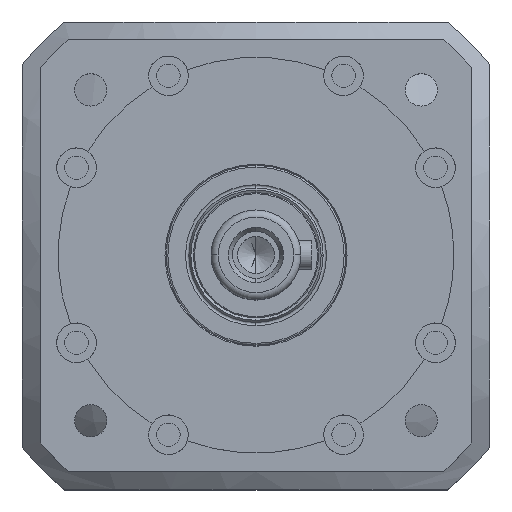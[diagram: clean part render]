
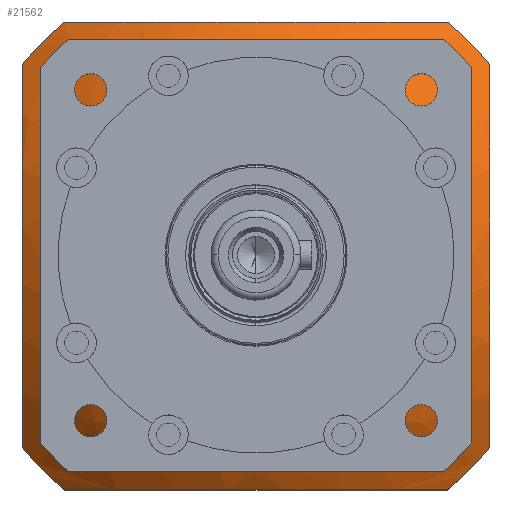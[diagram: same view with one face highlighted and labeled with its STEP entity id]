
A CAD part, top view. The second image highlights one B-rep face of the part: STEP entity #21562.
In plain terms, the highlighted spherical face has radius 120 mm.
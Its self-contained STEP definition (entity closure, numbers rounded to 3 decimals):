
#678 = CARTESIAN_POINT ( 'NONE',  ( -60., 0., -28. ) ) ;
#1631 = CIRCLE ( 'NONE', #9350, 100.871 ) ;
#2020 = DIRECTION ( 'NONE',  ( 1., 0., 0. ) ) ;
#2132 = AXIS2_PLACEMENT_3D ( 'NONE', #41748, #21915, #2020 ) ;
#2481 = CIRCLE ( 'NONE', #8600, 100.871 ) ;
#2708 = AXIS2_PLACEMENT_3D ( 'NONE', #10392, #33609, #13771 ) ;
#2795 = ORIENTED_EDGE ( 'NONE', *, *, #20665, .T. ) ;
#4876 = VERTEX_POINT ( 'NONE', #19861 ) ;
#5174 = DIRECTION ( 'NONE',  ( 0., 0., 1. ) ) ;
#5661 = AXIS2_PLACEMENT_3D ( 'NONE', #26237, #6320, #29570 ) ;
#5796 = CIRCLE ( 'NONE', #7872, 84. ) ;
#6076 = VERTEX_POINT ( 'NONE', #34321 ) ;
#6320 = DIRECTION ( 'NONE',  ( 0., 0., 1. ) ) ;
#6674 = EDGE_CURVE ( 'NONE', #11865, #4876, #1631, .T. ) ;
#7750 = VERTEX_POINT ( 'NONE', #35141 ) ;
#7872 = AXIS2_PLACEMENT_3D ( 'NONE', #12294, #35486, #15643 ) ;
#8600 = AXIS2_PLACEMENT_3D ( 'NONE', #39370, #19580, #42736 ) ;
#8960 = ORIENTED_EDGE ( 'NONE', *, *, #14673, .T. ) ;
#9153 = DIRECTION ( 'NONE',  ( 1., 0., 0. ) ) ;
#9350 = AXIS2_PLACEMENT_3D ( 'NONE', #33476, #13615, #36779 ) ;
#9354 = CARTESIAN_POINT ( 'NONE',  ( -65., -53.207, -46.226 ) ) ;
#9358 = ORIENTED_EDGE ( 'NONE', *, *, #6674, .T. ) ;
#9531 = CARTESIAN_POINT ( 'NONE',  ( 0., 0., -46.226 ) ) ;
#10230 = EDGE_CURVE ( 'NONE', #26830, #33622, #40307, .T. ) ;
#10392 = CARTESIAN_POINT ( 'NONE',  ( 0., -65., -131.923 ) ) ;
#11116 = CIRCLE ( 'NONE', #26156, 100.871 ) ;
#11865 = VERTEX_POINT ( 'NONE', #29378 ) ;
#12294 = CARTESIAN_POINT ( 'NONE',  ( 0., 0., -46.226 ) ) ;
#12597 = EDGE_CURVE ( 'NONE', #26474, #40013, #15330, .T. ) ;
#12888 = DIRECTION ( 'NONE',  ( 1., 0., 0. ) ) ;
#13295 = EDGE_CURVE ( 'NONE', #7750, #26474, #31871, .T. ) ;
#13615 = DIRECTION ( 'NONE',  ( 0., -1., 0. ) ) ;
#13771 = DIRECTION ( 'NONE',  ( 0., 0., 1. ) ) ;
#14465 = EDGE_LOOP ( 'NONE', ( #34163, #32335 ) ) ;
#14673 = EDGE_CURVE ( 'NONE', #35205, #11865, #31173, .T. ) ;
#14756 = ORIENTED_EDGE ( 'NONE', *, *, #16390, .T. ) ;
#15330 = CIRCLE ( 'NONE', #2132, 84. ) ;
#15482 = DIRECTION ( 'NONE',  ( 0.792, 0., 0.611 ) ) ;
#15626 = ORIENTED_EDGE ( 'NONE', *, *, #38587, .T. ) ;
#15643 = DIRECTION ( 'NONE',  ( 1., 0., 0. ) ) ;
#16390 = EDGE_CURVE ( 'NONE', #40013, #35205, #2481, .T. ) ;
#16404 = CARTESIAN_POINT ( 'NONE',  ( 0., 0., -46.226 ) ) ;
#17241 = AXIS2_PLACEMENT_3D ( 'NONE', #9531, #32763, #12888 ) ;
#18768 = CIRCLE ( 'NONE', #33680, 84. ) ;
#19147 = CIRCLE ( 'NONE', #31389, 60. ) ;
#19580 = DIRECTION ( 'NONE',  ( -1., 0., 0. ) ) ;
#19732 = DIRECTION ( 'NONE',  ( 1., 0., 0. ) ) ;
#19861 = CARTESIAN_POINT ( 'NONE',  ( -53.207, 65., -46.226 ) ) ;
#20665 = EDGE_CURVE ( 'NONE', #6076, #29468, #11116, .T. ) ;
#20692 = EDGE_LOOP ( 'NONE', ( #15626, #2795, #39885, #36729, #36771, #14756, #8960, #9358 ) ) ;
#21483 = FACE_BOUND ( 'NONE', #14465, .T. ) ;
#21562 = ADVANCED_FACE ( 'NONE', ( #21483, #29229 ), #38045, .T. ) ;
#21915 = DIRECTION ( 'NONE',  ( 0., 0., 1. ) ) ;
#25094 = CARTESIAN_POINT ( 'NONE',  ( 0., 0., -28. ) ) ;
#25466 = EDGE_CURVE ( 'NONE', #29468, #7750, #5796, .T. ) ;
#26156 = AXIS2_PLACEMENT_3D ( 'NONE', #29055, #9153, #32408 ) ;
#26237 = CARTESIAN_POINT ( 'NONE',  ( 0., 0., -28. ) ) ;
#26474 = VERTEX_POINT ( 'NONE', #28004 ) ;
#26830 = VERTEX_POINT ( 'NONE', #38753 ) ;
#27716 = CARTESIAN_POINT ( 'NONE',  ( 65., -53.207, -46.226 ) ) ;
#28004 = CARTESIAN_POINT ( 'NONE',  ( 53.207, -65., -46.226 ) ) ;
#28425 = DIRECTION ( 'NONE',  ( 1., 0., 0. ) ) ;
#28812 = DIRECTION ( 'NONE',  ( -0.611, 0., 0.792 ) ) ;
#28966 = EDGE_CURVE ( 'NONE', #33622, #26830, #19147, .T. ) ;
#29055 = CARTESIAN_POINT ( 'NONE',  ( -65., 0., -131.923 ) ) ;
#29229 = FACE_OUTER_BOUND ( 'NONE', #20692, .T. ) ;
#29378 = CARTESIAN_POINT ( 'NONE',  ( 53.207, 65., -46.226 ) ) ;
#29468 = VERTEX_POINT ( 'NONE', #9354 ) ;
#29570 = DIRECTION ( 'NONE',  ( 1., 0., 0. ) ) ;
#30450 = CARTESIAN_POINT ( 'NONE',  ( 65., 53.207, -46.226 ) ) ;
#31173 = CIRCLE ( 'NONE', #17241, 84. ) ;
#31389 = AXIS2_PLACEMENT_3D ( 'NONE', #25094, #5174, #28425 ) ;
#31587 = CARTESIAN_POINT ( 'NONE',  ( 0., 0., -131.923 ) ) ;
#31871 = CIRCLE ( 'NONE', #2708, 100.871 ) ;
#32335 = ORIENTED_EDGE ( 'NONE', *, *, #28966, .F. ) ;
#32408 = DIRECTION ( 'NONE',  ( 0., 0., -1. ) ) ;
#32763 = DIRECTION ( 'NONE',  ( 0., 0., 1. ) ) ;
#33476 = CARTESIAN_POINT ( 'NONE',  ( 0., 65., -131.923 ) ) ;
#33609 = DIRECTION ( 'NONE',  ( 0., 1., 0. ) ) ;
#33622 = VERTEX_POINT ( 'NONE', #678 ) ;
#33680 = AXIS2_PLACEMENT_3D ( 'NONE', #16404, #39531, #19732 ) ;
#34163 = ORIENTED_EDGE ( 'NONE', *, *, #10230, .F. ) ;
#34321 = CARTESIAN_POINT ( 'NONE',  ( -65., 53.207, -46.226 ) ) ;
#35141 = CARTESIAN_POINT ( 'NONE',  ( -53.207, -65., -46.226 ) ) ;
#35205 = VERTEX_POINT ( 'NONE', #30450 ) ;
#35486 = DIRECTION ( 'NONE',  ( 0., 0., 1. ) ) ;
#36729 = ORIENTED_EDGE ( 'NONE', *, *, #13295, .T. ) ;
#36771 = ORIENTED_EDGE ( 'NONE', *, *, #12597, .T. ) ;
#36779 = DIRECTION ( 'NONE',  ( 0., 0., 1. ) ) ;
#38045 = SPHERICAL_SURFACE ( 'NONE', #40032, 120. ) ;
#38587 = EDGE_CURVE ( 'NONE', #4876, #6076, #18768, .T. ) ;
#38753 = CARTESIAN_POINT ( 'NONE',  ( 60., 0., -28. ) ) ;
#39370 = CARTESIAN_POINT ( 'NONE',  ( 65., 0., -131.923 ) ) ;
#39531 = DIRECTION ( 'NONE',  ( 0., 0., 1. ) ) ;
#39885 = ORIENTED_EDGE ( 'NONE', *, *, #25466, .T. ) ;
#40013 = VERTEX_POINT ( 'NONE', #27716 ) ;
#40032 = AXIS2_PLACEMENT_3D ( 'NONE', #31587, #15482, #28812 ) ;
#40307 = CIRCLE ( 'NONE', #5661, 60. ) ;
#41748 = CARTESIAN_POINT ( 'NONE',  ( 0., 0., -46.226 ) ) ;
#42736 = DIRECTION ( 'NONE',  ( 0., 0., 1. ) ) ;
